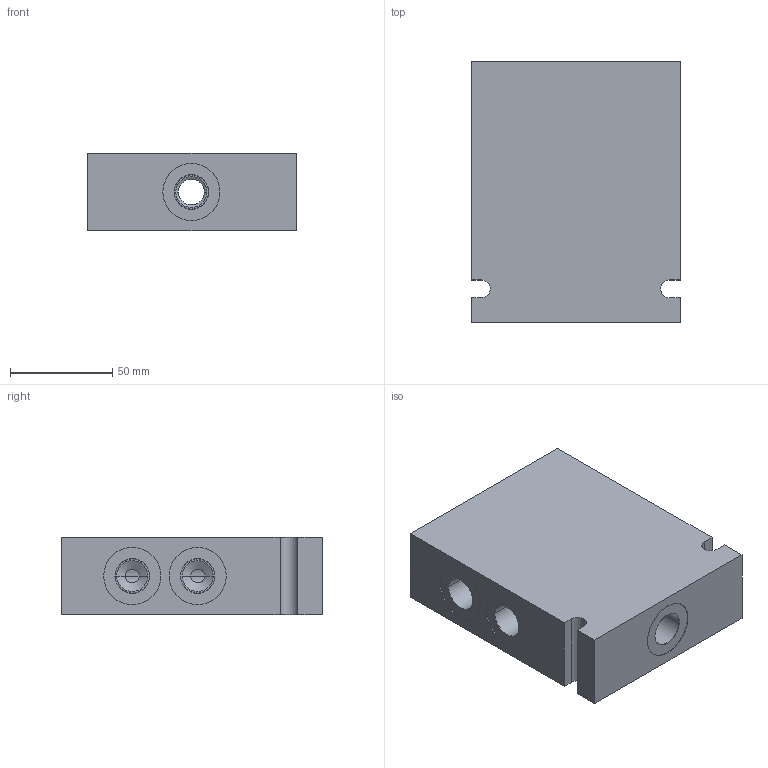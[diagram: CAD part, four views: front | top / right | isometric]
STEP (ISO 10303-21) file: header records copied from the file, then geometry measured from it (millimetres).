
FILE_DESCRIPTION((''),'2;1');
FILE_NAME('4552990_3-8','2007-11-12T',('KC2'),(''),'PRO/ENGINEER BY PARAMETRIC TECHNOLOGY CORPORATION, 2005310','PRO/ENGINEER BY PARAMETRIC TECHNOLOGY CORPORATION, 2005310','');
FILE_SCHEMA(('CONFIG_CONTROL_DESIGN'));
Length unit declared in the file: inch
Products named in the file (1): 4552990_3-8
Bounding box: 102.21 x 127.61 x 38.1 mm (x, y, z)
Volume: 439586.4 mm3; surface area: 57075.7 mm2
Topology: 1 solids, 1 shells, 125 faces, 275 edges, 160 vertices
Faces by surface type: cylinder 62, cone 28, plane 25, torus 10
Entity records: 3583 total; most frequent: CARTESIAN_POINT 690, DIRECTION 655, ORIENTED_EDGE 550, EDGE_CURVE 275, AXIS2_PLACEMENT_3D 265, VERTEX_POINT 160, EDGE_LOOP 145, CIRCLE 140
